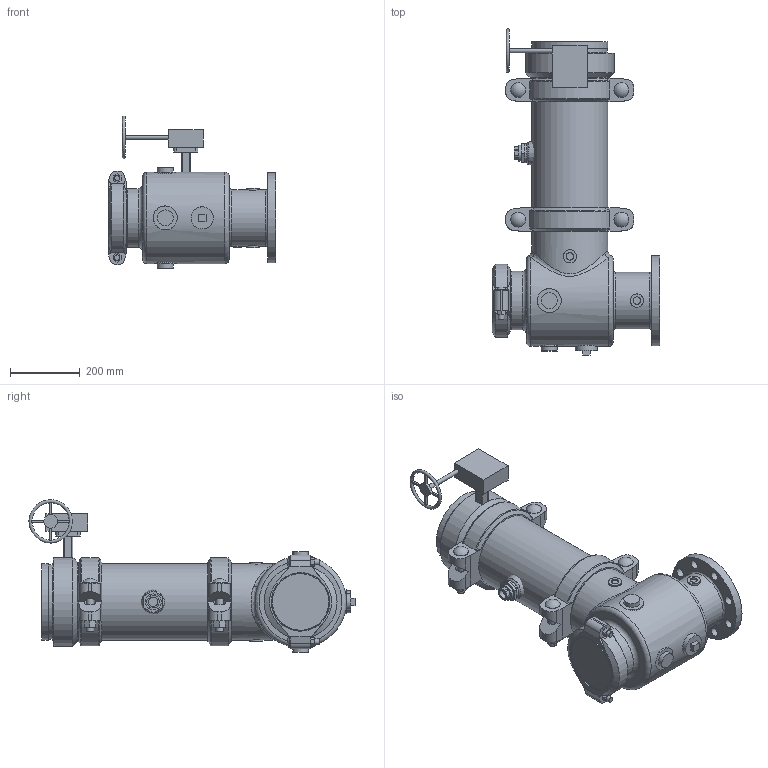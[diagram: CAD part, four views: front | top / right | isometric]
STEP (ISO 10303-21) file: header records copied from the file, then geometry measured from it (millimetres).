
FILE_DESCRIPTION(/* description */ ('VIC SVI PUMP DROP HORZ S/391 (OGSxFLG)','CAx-IF Rec.Pracs.---Representation and Presentation of Product Manufacturing Information (PMI)---4.0---2014-10-13'),/* implementation_level */ '2;1');
FILE_NAME(/* name */ 'C:\Users\Vjadhav\AppData\Roaming\Autodesk\ApplicationPlugins\Victaulic.Temp\A952\Victaulic_IPS_SVI_CL 150_Series 391 (OGSxFLG)_08.0x05.0 (200x125).stp',/* time_stamp */ '2021-04-09T17:54:35+05:00',/* author */ ('kkamble'),/* organization */ ('Victaulic'),/* preprocessor_version */ 'ST-DEVELOPER v17.2',/* originating_system */ 'Autodesk Inventor 2019',/* authorisation */ '');
FILE_SCHEMA (('AP242_MANAGED_MODEL_BASED_3D_ENGINEERING_MIM_LF { 1 0 10303 442 1 1 4 }'));
Length unit declared in the file: inch
Products named in the file (9): 391-08.0x05.0; 731D-08.0x05.0; 731D-08.0x05.0_1; 731D-08.0; 07-06.0; PIPE-08.0; 177N-08.0; 761-08.0; 923-04.0x0.75
Assembly tree (9 placements, depth 3):
  391-08.0x05.0
    731D-08.0x05.0
      731D-08.0x05.0_1
      731D-08.0
      07-06.0
    177N-08.0  x2
    PIPE-08.0
    761-08.0
    923-04.0x0.75
Bounding box: 482.6 x 936.74 x 438.39 mm (x, y, z)
Volume: 17503291.3 mm3; surface area: 2270668.5 mm2
Topology: 8 solids, 11 shells, 510 faces, 1347 edges, 909 vertices
Faces by surface type: plane 294, cylinder 172, torus 18, cone 16, sphere 6, bspline 4
Full cylindrical faces by diameter (mm): 8.636 x4, 12.446 x1, 12.7 x1, 15.875 x4, 21.336 x4, 22.225 x4, 22.86 x1, 26.01 x8, 26.67 x1, 27.381 x2, 38.1 x4, 39.125 x1, 42.85 x4, 45.72 x3, 45.974 x2, 55.118 x1, 55.626 x1, 63.5 x1, 127 x1, 132.588 x1, 136.906 x1, 146.558 x1, 155.575 x1, 162.814 x1, 163.703 x1, 163.957 x1, 168.275 x5, 193.802 x1, 202.717 x2, 206.375 x2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
Entity records: 15504 total; most frequent: CARTESIAN_POINT 3994, DIRECTION 2329, ORIENTED_EDGE 2196, EDGE_CURVE 1098, AXIS2_PLACEMENT_3D 896, VERTEX_POINT 745, LINE 537, VECTOR 537
